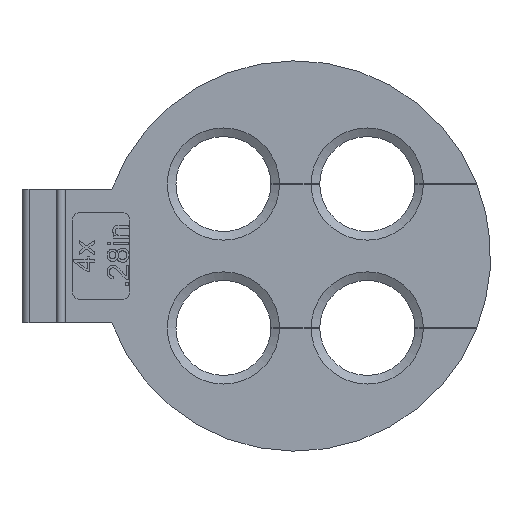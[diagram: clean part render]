
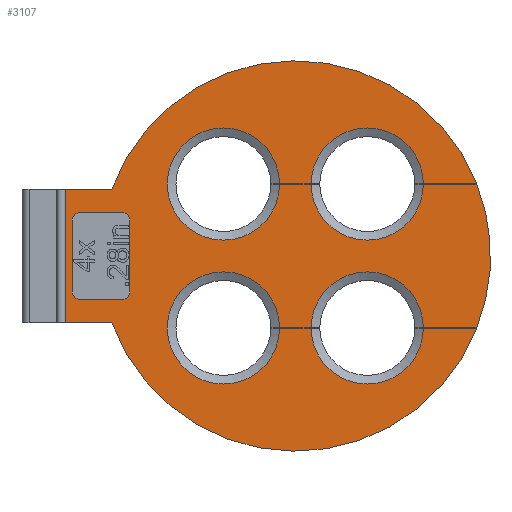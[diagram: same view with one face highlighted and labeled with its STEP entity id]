
A CAD part, left-side view. The second image highlights one B-rep face of the part: STEP entity #3107.
In plain terms, the highlighted planar face has unit normal (-1, 0, 0).
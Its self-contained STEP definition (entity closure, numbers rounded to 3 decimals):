
#113=FACE_BOUND('',#438,.T.);
#147=CIRCLE('',#3278,13.57);
#160=CIRCLE('',#3296,3.9);
#170=CIRCLE('',#3319,3.9);
#175=CIRCLE('',#3329,3.9);
#177=CIRCLE('',#3333,3.9);
#178=CIRCLE('',#3334,3.9);
#179=CIRCLE('',#3335,13.57);
#180=CIRCLE('',#3336,3.9);
#181=CIRCLE('',#3337,13.57);
#182=CIRCLE('',#3338,0.5);
#183=CIRCLE('',#3339,0.5);
#184=CIRCLE('',#3340,0.5);
#185=CIRCLE('',#3341,0.5);
#267=FACE_OUTER_BOUND('',#437,.T.);
#437=EDGE_LOOP('',(#2246,#2247,#2248,#2249,#2250,#2251,#2252,#2253,#2254,
#2255,#2256,#2257,#2258,#2259,#2260,#2261,#2262,#2263,#2264,#2265));
#438=EDGE_LOOP('',(#2266,#2267,#2268,#2269,#2270,#2271,#2272,#2273));
#595=LINE('',#4222,#928);
#611=LINE('',#4262,#944);
#622=LINE('',#4286,#955);
#628=LINE('',#4299,#961);
#653=LINE('',#4411,#986);
#655=LINE('',#4417,#988);
#668=LINE('',#4442,#1001);
#674=LINE('',#4455,#1007);
#683=LINE('',#4493,#1016);
#684=LINE('',#4495,#1017);
#685=LINE('',#4497,#1018);
#686=LINE('',#4505,#1019);
#687=LINE('',#4509,#1020);
#688=LINE('',#4513,#1021);
#689=LINE('',#4516,#1022);
#928=VECTOR('',#3476,10.);
#944=VECTOR('',#3494,10.);
#955=VECTOR('',#3507,10.);
#961=VECTOR('',#3515,10.);
#986=VECTOR('',#3620,10.);
#988=VECTOR('',#3624,10.);
#1001=VECTOR('',#3639,10.);
#1007=VECTOR('',#3647,10.);
#1016=VECTOR('',#3700,10.);
#1017=VECTOR('',#3701,10.);
#1018=VECTOR('',#3702,10.);
#1019=VECTOR('',#3711,10.);
#1020=VECTOR('',#3714,10.);
#1021=VECTOR('',#3717,10.);
#1022=VECTOR('',#3720,10.);
#1260=VERTEX_POINT('',#4218);
#1262=VERTEX_POINT('',#4221);
#1271=VERTEX_POINT('',#4242);
#1279=VERTEX_POINT('',#4260);
#1290=VERTEX_POINT('',#4283);
#1291=VERTEX_POINT('',#4285);
#1296=VERTEX_POINT('',#4296);
#1297=VERTEX_POINT('',#4298);
#1309=VERTEX_POINT('',#4328);
#1327=VERTEX_POINT('',#4396);
#1332=VERTEX_POINT('',#4409);
#1333=VERTEX_POINT('',#4413);
#1335=VERTEX_POINT('',#4416);
#1345=VERTEX_POINT('',#4439);
#1346=VERTEX_POINT('',#4441);
#1351=VERTEX_POINT('',#4452);
#1352=VERTEX_POINT('',#4454);
#1359=VERTEX_POINT('',#4492);
#1360=VERTEX_POINT('',#4494);
#1361=VERTEX_POINT('',#4496);
#1362=VERTEX_POINT('',#4501);
#1363=VERTEX_POINT('',#4502);
#1364=VERTEX_POINT('',#4504);
#1365=VERTEX_POINT('',#4506);
#1366=VERTEX_POINT('',#4508);
#1367=VERTEX_POINT('',#4510);
#1368=VERTEX_POINT('',#4512);
#1369=VERTEX_POINT('',#4514);
#1575=EDGE_CURVE('',#1262,#1260,#595,.T.);
#1593=EDGE_CURVE('',#1271,#1279,#611,.T.);
#1604=EDGE_CURVE('',#1291,#1290,#622,.T.);
#1610=EDGE_CURVE('',#1297,#1296,#628,.T.);
#1626=EDGE_CURVE('',#1309,#1279,#147,.T.);
#1650=EDGE_CURVE('',#1290,#1271,#160,.T.);
#1664=EDGE_CURVE('',#1327,#1332,#653,.T.);
#1666=EDGE_CURVE('',#1335,#1333,#655,.T.);
#1679=EDGE_CURVE('',#1346,#1345,#668,.T.);
#1685=EDGE_CURVE('',#1352,#1351,#674,.T.);
#1697=EDGE_CURVE('',#1351,#1346,#170,.T.);
#1702=EDGE_CURVE('',#1333,#1352,#175,.T.);
#1704=EDGE_CURVE('',#1260,#1297,#177,.T.);
#1705=EDGE_CURVE('',#1296,#1291,#178,.T.);
#1706=EDGE_CURVE('',#1309,#1359,#683,.T.);
#1707=EDGE_CURVE('',#1359,#1360,#684,.T.);
#1708=EDGE_CURVE('',#1360,#1361,#685,.T.);
#1709=EDGE_CURVE('',#1335,#1361,#179,.T.);
#1710=EDGE_CURVE('',#1345,#1327,#180,.T.);
#1711=EDGE_CURVE('',#1262,#1332,#181,.T.);
#1712=EDGE_CURVE('',#1362,#1363,#182,.T.);
#1713=EDGE_CURVE('',#1363,#1364,#686,.T.);
#1714=EDGE_CURVE('',#1364,#1365,#183,.T.);
#1715=EDGE_CURVE('',#1365,#1366,#687,.T.);
#1716=EDGE_CURVE('',#1366,#1367,#184,.T.);
#1717=EDGE_CURVE('',#1367,#1368,#688,.T.);
#1718=EDGE_CURVE('',#1368,#1369,#185,.T.);
#1719=EDGE_CURVE('',#1369,#1362,#689,.T.);
#2246=ORIENTED_EDGE('',*,*,#1575,.T.);
#2247=ORIENTED_EDGE('',*,*,#1704,.T.);
#2248=ORIENTED_EDGE('',*,*,#1610,.T.);
#2249=ORIENTED_EDGE('',*,*,#1705,.T.);
#2250=ORIENTED_EDGE('',*,*,#1604,.T.);
#2251=ORIENTED_EDGE('',*,*,#1650,.T.);
#2252=ORIENTED_EDGE('',*,*,#1593,.T.);
#2253=ORIENTED_EDGE('',*,*,#1626,.F.);
#2254=ORIENTED_EDGE('',*,*,#1706,.T.);
#2255=ORIENTED_EDGE('',*,*,#1707,.T.);
#2256=ORIENTED_EDGE('',*,*,#1708,.T.);
#2257=ORIENTED_EDGE('',*,*,#1709,.F.);
#2258=ORIENTED_EDGE('',*,*,#1666,.T.);
#2259=ORIENTED_EDGE('',*,*,#1702,.T.);
#2260=ORIENTED_EDGE('',*,*,#1685,.T.);
#2261=ORIENTED_EDGE('',*,*,#1697,.T.);
#2262=ORIENTED_EDGE('',*,*,#1679,.T.);
#2263=ORIENTED_EDGE('',*,*,#1710,.T.);
#2264=ORIENTED_EDGE('',*,*,#1664,.T.);
#2265=ORIENTED_EDGE('',*,*,#1711,.F.);
#2266=ORIENTED_EDGE('',*,*,#1712,.T.);
#2267=ORIENTED_EDGE('',*,*,#1713,.T.);
#2268=ORIENTED_EDGE('',*,*,#1714,.T.);
#2269=ORIENTED_EDGE('',*,*,#1715,.T.);
#2270=ORIENTED_EDGE('',*,*,#1716,.T.);
#2271=ORIENTED_EDGE('',*,*,#1717,.T.);
#2272=ORIENTED_EDGE('',*,*,#1718,.T.);
#2273=ORIENTED_EDGE('',*,*,#1719,.T.);
#2993=PLANE('',#3332);
#3107=ADVANCED_FACE('',(#267,#113),#2993,.F.);
#3278=AXIS2_PLACEMENT_3D('',#4330,#3542,#3543);
#3296=AXIS2_PLACEMENT_3D('',#4381,#3586,#3587);
#3319=AXIS2_PLACEMENT_3D('',#4476,#3668,#3669);
#3329=AXIS2_PLACEMENT_3D('',#4486,#3688,#3689);
#3332=AXIS2_PLACEMENT_3D('',#4489,#3694,#3695);
#3333=AXIS2_PLACEMENT_3D('',#4490,#3696,#3697);
#3334=AXIS2_PLACEMENT_3D('',#4491,#3698,#3699);
#3335=AXIS2_PLACEMENT_3D('',#4498,#3703,#3704);
#3336=AXIS2_PLACEMENT_3D('',#4499,#3705,#3706);
#3337=AXIS2_PLACEMENT_3D('',#4500,#3707,#3708);
#3338=AXIS2_PLACEMENT_3D('',#4503,#3709,#3710);
#3339=AXIS2_PLACEMENT_3D('',#4507,#3712,#3713);
#3340=AXIS2_PLACEMENT_3D('',#4511,#3715,#3716);
#3341=AXIS2_PLACEMENT_3D('',#4515,#3718,#3719);
#3476=DIRECTION('',(0.,1.,0.));
#3494=DIRECTION('',(0.,-1.,0.));
#3507=DIRECTION('',(0.,-1.,0.));
#3515=DIRECTION('',(0.,1.,0.));
#3542=DIRECTION('center_axis',(1.,0.,0.));
#3543=DIRECTION('ref_axis',(0.,0.,-1.));
#3586=DIRECTION('center_axis',(1.,0.,0.));
#3587=DIRECTION('ref_axis',(0.,1.,0.));
#3620=DIRECTION('',(0.,-1.,0.));
#3624=DIRECTION('',(0.,1.,0.));
#3639=DIRECTION('',(0.,-1.,0.));
#3647=DIRECTION('',(0.,1.,0.));
#3668=DIRECTION('center_axis',(1.,0.,0.));
#3669=DIRECTION('ref_axis',(0.,-1.,0.));
#3688=DIRECTION('center_axis',(1.,0.,0.));
#3689=DIRECTION('ref_axis',(0.,0.,1.));
#3694=DIRECTION('center_axis',(1.,0.,0.));
#3695=DIRECTION('ref_axis',(0.,0.,-1.));
#3696=DIRECTION('center_axis',(1.,0.,0.));
#3697=DIRECTION('ref_axis',(0.,1.,0.));
#3698=DIRECTION('center_axis',(1.,0.,0.));
#3699=DIRECTION('ref_axis',(0.,0.,-1.));
#3700=DIRECTION('',(0.,1.,0.));
#3701=DIRECTION('',(0.,0.,-1.));
#3702=DIRECTION('',(0.,-1.,0.));
#3703=DIRECTION('center_axis',(1.,0.,0.));
#3704=DIRECTION('ref_axis',(0.,0.,-1.));
#3705=DIRECTION('center_axis',(1.,0.,0.));
#3706=DIRECTION('ref_axis',(0.,0.,1.));
#3707=DIRECTION('center_axis',(1.,0.,0.));
#3708=DIRECTION('ref_axis',(0.,0.,-1.));
#3709=DIRECTION('center_axis',(1.,0.,0.));
#3710=DIRECTION('ref_axis',(0.,-1.,0.));
#3711=DIRECTION('',(0.,0.,1.));
#3712=DIRECTION('center_axis',(1.,0.,0.));
#3713=DIRECTION('ref_axis',(0.,0.,-1.));
#3714=DIRECTION('',(0.,-1.,0.));
#3715=DIRECTION('center_axis',(1.,0.,0.));
#3716=DIRECTION('ref_axis',(0.,1.,0.));
#3717=DIRECTION('',(0.,0.,-1.));
#3718=DIRECTION('center_axis',(1.,0.,0.));
#3719=DIRECTION('ref_axis',(0.,0.,1.));
#3720=DIRECTION('',(0.,1.,0.));
#4218=CARTESIAN_POINT('',(-0.8,-8.9,4.995));
#4221=CARTESIAN_POINT('',(-0.8,-12.617,4.995));
#4222=CARTESIAN_POINT('',(-0.8,-6.309,4.995));
#4242=CARTESIAN_POINT('',(-0.8,-8.9,5.005));
#4260=CARTESIAN_POINT('',(-0.8,-12.613,5.005));
#4262=CARTESIAN_POINT('',(-0.8,0.85,5.005));
#4283=CARTESIAN_POINT('',(-0.8,-1.1,5.005));
#4285=CARTESIAN_POINT('',(-0.8,1.1,5.005));
#4286=CARTESIAN_POINT('',(-0.8,0.85,5.005));
#4296=CARTESIAN_POINT('',(-0.8,1.1,4.995));
#4298=CARTESIAN_POINT('',(-0.8,-1.1,4.995));
#4299=CARTESIAN_POINT('',(-0.8,-6.309,4.995));
#4328=CARTESIAN_POINT('',(-0.8,12.748,4.65));
#4330=CARTESIAN_POINT('Origin',(-0.8,0.,0.));
#4381=CARTESIAN_POINT('Origin',(-0.8,-5.,5.));
#4396=CARTESIAN_POINT('',(-0.8,-8.9,-4.995));
#4409=CARTESIAN_POINT('',(-0.8,-12.617,-4.995));
#4411=CARTESIAN_POINT('',(-0.8,-6.309,-4.995));
#4413=CARTESIAN_POINT('',(-0.8,-8.9,-5.005));
#4416=CARTESIAN_POINT('',(-0.8,-12.613,-5.005));
#4417=CARTESIAN_POINT('',(-0.8,0.85,-5.005));
#4439=CARTESIAN_POINT('',(-0.8,-1.1,-4.995));
#4441=CARTESIAN_POINT('',(-0.8,1.1,-4.995));
#4442=CARTESIAN_POINT('',(-0.8,-6.309,-4.995));
#4452=CARTESIAN_POINT('',(-0.8,1.1,-5.005));
#4454=CARTESIAN_POINT('',(-0.8,-1.1,-5.005));
#4455=CARTESIAN_POINT('',(-0.8,0.85,-5.005));
#4476=CARTESIAN_POINT('Origin',(-0.8,5.,-5.));
#4486=CARTESIAN_POINT('Origin',(-0.8,-5.,-5.));
#4489=CARTESIAN_POINT('Origin',(-0.8,0.,0.));
#4490=CARTESIAN_POINT('Origin',(-0.8,-5.,5.));
#4491=CARTESIAN_POINT('Origin',(-0.8,5.,5.));
#4492=CARTESIAN_POINT('',(-0.8,16.,4.65));
#4493=CARTESIAN_POINT('',(-0.8,15.618,4.65));
#4494=CARTESIAN_POINT('',(-0.8,16.,-4.65));
#4495=CARTESIAN_POINT('',(-0.8,16.,2.325));
#4496=CARTESIAN_POINT('',(-0.8,12.748,-4.65));
#4497=CARTESIAN_POINT('',(-0.8,13.655,-4.65));
#4498=CARTESIAN_POINT('Origin',(-0.8,0.,0.));
#4499=CARTESIAN_POINT('Origin',(-0.8,-5.,-5.));
#4500=CARTESIAN_POINT('Origin',(-0.8,0.,0.));
#4501=CARTESIAN_POINT('',(-0.8,15.,-3.));
#4502=CARTESIAN_POINT('',(-0.8,15.5,-2.5));
#4503=CARTESIAN_POINT('Origin',(-0.8,15.,-2.5));
#4504=CARTESIAN_POINT('',(-0.8,15.5,2.5));
#4505=CARTESIAN_POINT('',(-0.8,15.5,1.25));
#4506=CARTESIAN_POINT('',(-0.8,15.,3.));
#4507=CARTESIAN_POINT('Origin',(-0.8,15.,2.5));
#4508=CARTESIAN_POINT('',(-0.8,12.,3.));
#4509=CARTESIAN_POINT('',(-0.8,6.,3.));
#4510=CARTESIAN_POINT('',(-0.8,11.5,2.5));
#4511=CARTESIAN_POINT('Origin',(-0.8,12.,2.5));
#4512=CARTESIAN_POINT('',(-0.8,11.5,-2.5));
#4513=CARTESIAN_POINT('',(-0.8,11.5,-1.25));
#4514=CARTESIAN_POINT('',(-0.8,12.,-3.));
#4515=CARTESIAN_POINT('Origin',(-0.8,12.,-2.5));
#4516=CARTESIAN_POINT('',(-0.8,7.5,-3.));
